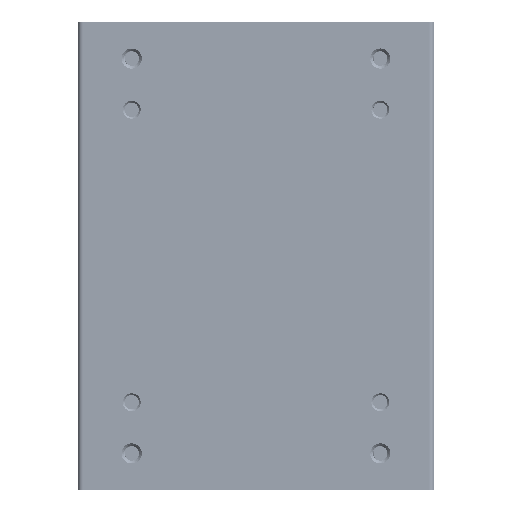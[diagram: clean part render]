
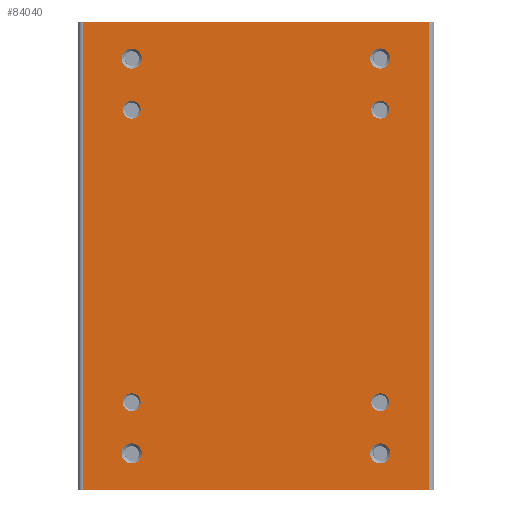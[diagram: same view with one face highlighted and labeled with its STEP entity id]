
A CAD part, front view. The second image highlights one B-rep face of the part: STEP entity #84040.
In plain terms, the highlighted planar face has unit normal (0, -1, 0).
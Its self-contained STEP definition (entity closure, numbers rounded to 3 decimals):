
#1394 = DIRECTION ( 'NONE',  ( -1., 0., 0. ) ) ;
#2471 = DIRECTION ( 'NONE',  ( 0., 1., 0. ) ) ;
#3116 = ORIENTED_EDGE ( 'NONE', *, *, #47704, .T. ) ;
#3916 = EDGE_LOOP ( 'NONE', ( #68655 ) ) ;
#5754 = EDGE_LOOP ( 'NONE', ( #53804 ) ) ;
#6337 = CARTESIAN_POINT ( 'NONE',  ( 30., 0., 40.64 ) ) ;
#6909 = VERTEX_POINT ( 'NONE', #110728 ) ;
#10150 = FACE_BOUND ( 'NONE', #3916, .T. ) ;
#11283 = FACE_OUTER_BOUND ( 'NONE', #36859, .T. ) ;
#12125 = CARTESIAN_POINT ( 'NONE',  ( 21.59, 0., -34.29 ) ) ;
#12182 = CARTESIAN_POINT ( 'NONE',  ( 21.59, 0., -25.4 ) ) ;
#12718 = DIRECTION ( 'NONE',  ( 0., 1., 0. ) ) ;
#13759 = AXIS2_PLACEMENT_3D ( 'NONE', #62070, #79170, #87167 ) ;
#13832 = DIRECTION ( 'NONE',  ( -1., 0., 0. ) ) ;
#14964 = ORIENTED_EDGE ( 'NONE', *, *, #20828, .T. ) ;
#15103 = EDGE_CURVE ( 'NONE', #19195, #50482, #98914, .T. ) ;
#15175 = CARTESIAN_POINT ( 'NONE',  ( -21.59, 0., 34.29 ) ) ;
#15551 = AXIS2_PLACEMENT_3D ( 'NONE', #96306, #99646, #39167 ) ;
#15657 = AXIS2_PLACEMENT_3D ( 'NONE', #32780, #16226, #67586 ) ;
#16226 = DIRECTION ( 'NONE',  ( 0., 1., 0. ) ) ;
#17763 = CARTESIAN_POINT ( 'NONE',  ( -30., 0., 40.64 ) ) ;
#18003 = CARTESIAN_POINT ( 'NONE',  ( -30., 0., -40.64 ) ) ;
#19195 = VERTEX_POINT ( 'NONE', #17763 ) ;
#20764 = CARTESIAN_POINT ( 'NONE',  ( 31., 0., 40.64 ) ) ;
#20828 = EDGE_CURVE ( 'NONE', #46314, #46314, #81029, .T. ) ;
#21006 = EDGE_LOOP ( 'NONE', ( #3116 ) ) ;
#22053 = EDGE_CURVE ( 'NONE', #19195, #46945, #85882, .T. ) ;
#23157 = ORIENTED_EDGE ( 'NONE', *, *, #104655, .T. ) ;
#24992 = CARTESIAN_POINT ( 'NONE',  ( 22.465, 0., -32.774 ) ) ;
#26697 = EDGE_CURVE ( 'NONE', #6909, #6909, #88402, .T. ) ;
#28650 = CARTESIAN_POINT ( 'NONE',  ( 20.04, 0., -25.4 ) ) ;
#28830 = ORIENTED_EDGE ( 'NONE', *, *, #84139, .T. ) ;
#31150 = ORIENTED_EDGE ( 'NONE', *, *, #87637, .T. ) ;
#32195 = CARTESIAN_POINT ( 'NONE',  ( -21.59, 0., -34.29 ) ) ;
#32780 = CARTESIAN_POINT ( 'NONE',  ( 21.59, 0., 34.29 ) ) ;
#33392 = DIRECTION ( 'NONE',  ( 0., 0., -1. ) ) ;
#35732 = EDGE_LOOP ( 'NONE', ( #79271 ) ) ;
#36782 = EDGE_CURVE ( 'NONE', #38187, #38187, #76054, .T. ) ;
#36859 = EDGE_LOOP ( 'NONE', ( #51454, #107912, #62452, #57121 ) ) ;
#38187 = VERTEX_POINT ( 'NONE', #55310 ) ;
#39167 = DIRECTION ( 'NONE',  ( -1., 0., 0. ) ) ;
#39598 = EDGE_CURVE ( 'NONE', #54188, #54188, #78263, .T. ) ;
#40617 = CARTESIAN_POINT ( 'NONE',  ( -21.59, 0., 25.4 ) ) ;
#41067 = AXIS2_PLACEMENT_3D ( 'NONE', #40617, #12718, #13832 ) ;
#42231 = EDGE_CURVE ( 'NONE', #46945, #95064, #47505, .T. ) ;
#45497 = FACE_BOUND ( 'NONE', #112881, .T. ) ;
#46314 = VERTEX_POINT ( 'NONE', #28650 ) ;
#46901 = DIRECTION ( 'NONE',  ( 0.5, 0., 0.866 ) ) ;
#46945 = VERTEX_POINT ( 'NONE', #18003 ) ;
#47298 = AXIS2_PLACEMENT_3D ( 'NONE', #32195, #66990, #101793 ) ;
#47505 = LINE ( 'NONE', #58895, #105165 ) ;
#47704 = EDGE_CURVE ( 'NONE', #105869, #105869, #109349, .T. ) ;
#49948 = DIRECTION ( 'NONE',  ( 0.5, 0., 0.866 ) ) ;
#50244 = CIRCLE ( 'NONE', #15657, 1.75 ) ;
#50482 = VERTEX_POINT ( 'NONE', #6337 ) ;
#51454 = ORIENTED_EDGE ( 'NONE', *, *, #15103, .F. ) ;
#53137 = DIRECTION ( 'NONE',  ( 0., 0., 1. ) ) ;
#53294 = DIRECTION ( 'NONE',  ( 0., 1., 0. ) ) ;
#53804 = ORIENTED_EDGE ( 'NONE', *, *, #26697, .T. ) ;
#54188 = VERTEX_POINT ( 'NONE', #80446 ) ;
#55310 = CARTESIAN_POINT ( 'NONE',  ( -23.14, 0., -25.4 ) ) ;
#56163 = DIRECTION ( 'NONE',  ( -1., 0., 0. ) ) ;
#57121 = ORIENTED_EDGE ( 'NONE', *, *, #107822, .T. ) ;
#58895 = CARTESIAN_POINT ( 'NONE',  ( 31., 0., -40.64 ) ) ;
#60522 = CARTESIAN_POINT ( 'NONE',  ( 20.04, 0., 25.4 ) ) ;
#61518 = CIRCLE ( 'NONE', #112494, 1.75 ) ;
#61640 = CARTESIAN_POINT ( 'NONE',  ( -20.715, 0., 35.806 ) ) ;
#62070 = CARTESIAN_POINT ( 'NONE',  ( -26.786, 0., 31.29 ) ) ;
#62452 = ORIENTED_EDGE ( 'NONE', *, *, #42231, .T. ) ;
#62633 = PLANE ( 'NONE',  #13759 ) ;
#63818 = AXIS2_PLACEMENT_3D ( 'NONE', #12125, #2471, #46901 ) ;
#66990 = DIRECTION ( 'NONE',  ( 0., 1., 0. ) ) ;
#67586 = DIRECTION ( 'NONE',  ( 0.5, 0., 0.866 ) ) ;
#68655 = ORIENTED_EDGE ( 'NONE', *, *, #39598, .T. ) ;
#70283 = VECTOR ( 'NONE', #33392, 1000. ) ;
#70613 = FACE_BOUND ( 'NONE', #35732, .T. ) ;
#76054 = CIRCLE ( 'NONE', #90636, 1.55 ) ;
#77437 = AXIS2_PLACEMENT_3D ( 'NONE', #12182, #53294, #1394 ) ;
#78263 = CIRCLE ( 'NONE', #47298, 1.75 ) ;
#79170 = DIRECTION ( 'NONE',  ( 0., 1., 0. ) ) ;
#79271 = ORIENTED_EDGE ( 'NONE', *, *, #36782, .T. ) ;
#79727 = FACE_BOUND ( 'NONE', #91319, .T. ) ;
#80446 = CARTESIAN_POINT ( 'NONE',  ( -20.715, 0., -32.774 ) ) ;
#81029 = CIRCLE ( 'NONE', #77437, 1.55 ) ;
#84040 = ADVANCED_FACE ( 'NONE', ( #79727, #88299, #10150, #88859, #106020, #45497, #70613, #104863, #11283 ), #62633, .F. ) ;
#84139 = EDGE_CURVE ( 'NONE', #86757, #86757, #95776, .T. ) ;
#85882 = LINE ( 'NONE', #112664, #70283 ) ;
#86757 = VERTEX_POINT ( 'NONE', #60522 ) ;
#87167 = DIRECTION ( 'NONE',  ( 0.5, 0., 0.866 ) ) ;
#87637 = EDGE_CURVE ( 'NONE', #105009, #105009, #61518, .T. ) ;
#88299 = FACE_BOUND ( 'NONE', #21006, .T. ) ;
#88402 = CIRCLE ( 'NONE', #41067, 1.55 ) ;
#88859 = FACE_BOUND ( 'NONE', #93014, .T. ) ;
#90348 = DIRECTION ( 'NONE',  ( 1., 0., 0. ) ) ;
#90636 = AXIS2_PLACEMENT_3D ( 'NONE', #92667, #108109, #56163 ) ;
#90805 = VECTOR ( 'NONE', #90348, 1000. ) ;
#91319 = EDGE_LOOP ( 'NONE', ( #31150 ) ) ;
#92667 = CARTESIAN_POINT ( 'NONE',  ( -21.59, 0., -25.4 ) ) ;
#93014 = EDGE_LOOP ( 'NONE', ( #23157 ) ) ;
#93131 = DIRECTION ( 'NONE',  ( 1., 0., 0. ) ) ;
#94149 = VECTOR ( 'NONE', #53137, 1000. ) ;
#95064 = VERTEX_POINT ( 'NONE', #99668 ) ;
#95776 = CIRCLE ( 'NONE', #15551, 1.55 ) ;
#96306 = CARTESIAN_POINT ( 'NONE',  ( 21.59, 0., 25.4 ) ) ;
#98914 = LINE ( 'NONE', #20764, #90805 ) ;
#99437 = CARTESIAN_POINT ( 'NONE',  ( 22.465, 0., 35.806 ) ) ;
#99646 = DIRECTION ( 'NONE',  ( 0., 1., 0. ) ) ;
#99668 = CARTESIAN_POINT ( 'NONE',  ( 30., 0., -40.64 ) ) ;
#101793 = DIRECTION ( 'NONE',  ( 0.5, 0., 0.866 ) ) ;
#104655 = EDGE_CURVE ( 'NONE', #108026, #108026, #50244, .T. ) ;
#104863 = FACE_BOUND ( 'NONE', #5754, .T. ) ;
#105009 = VERTEX_POINT ( 'NONE', #61640 ) ;
#105058 = CARTESIAN_POINT ( 'NONE',  ( 30., 0., 40.64 ) ) ;
#105165 = VECTOR ( 'NONE', #93131, 1000. ) ;
#105869 = VERTEX_POINT ( 'NONE', #24992 ) ;
#106020 = FACE_BOUND ( 'NONE', #108438, .T. ) ;
#106213 = LINE ( 'NONE', #105058, #94149 ) ;
#107822 = EDGE_CURVE ( 'NONE', #95064, #50482, #106213, .T. ) ;
#107912 = ORIENTED_EDGE ( 'NONE', *, *, #22053, .T. ) ;
#108026 = VERTEX_POINT ( 'NONE', #99437 ) ;
#108109 = DIRECTION ( 'NONE',  ( 0., 1., 0. ) ) ;
#108438 = EDGE_LOOP ( 'NONE', ( #28830 ) ) ;
#108764 = DIRECTION ( 'NONE',  ( 0., 1., 0. ) ) ;
#109349 = CIRCLE ( 'NONE', #63818, 1.75 ) ;
#110728 = CARTESIAN_POINT ( 'NONE',  ( -23.14, 0., 25.4 ) ) ;
#112494 = AXIS2_PLACEMENT_3D ( 'NONE', #15175, #108764, #49948 ) ;
#112664 = CARTESIAN_POINT ( 'NONE',  ( -30., 0., 40.64 ) ) ;
#112881 = EDGE_LOOP ( 'NONE', ( #14964 ) ) ;
